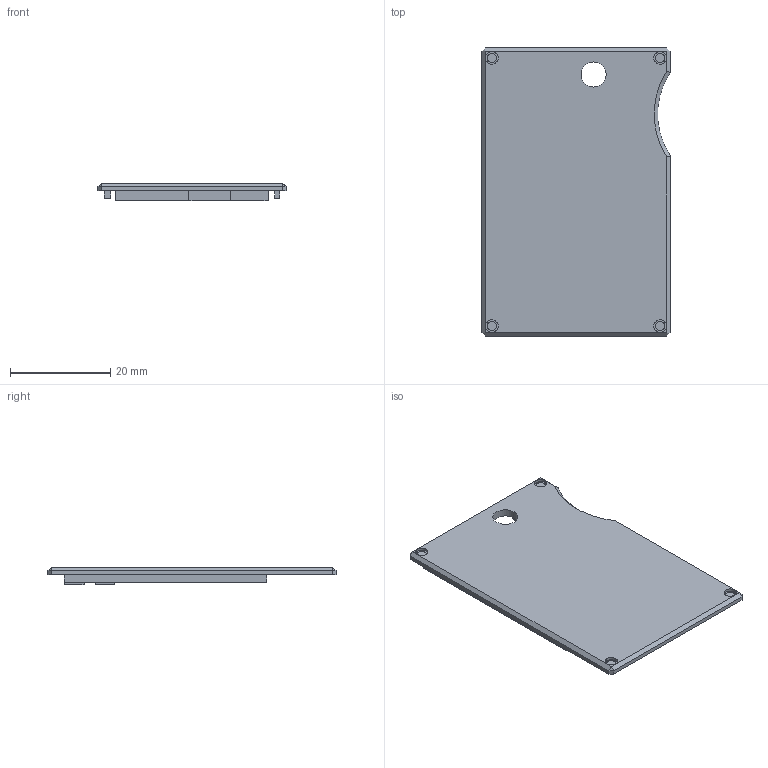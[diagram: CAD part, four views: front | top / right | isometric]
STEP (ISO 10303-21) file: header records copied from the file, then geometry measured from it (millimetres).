
FILE_DESCRIPTION(('FreeCAD Model'),'2;1');
FILE_NAME('Open CASCADE Shape Model','2026-01-29T07:27:18',(''),(''), 'Open CASCADE STEP processor 7.8','FreeCAD','Unknown');
FILE_SCHEMA(('AUTOMOTIVE_DESIGN { 1 0 10303 214 1 1 1 1 }'));
Length unit declared in the file: millimetre
Products named in the file (1): cover2
Bounding box: 37.5 x 57.4 x 3.5 mm (x, y, z)
Volume: 3419.7 mm3; surface area: 4821.4 mm2
Topology: 1 solids, 1 shells, 68 faces, 137 edges, 88 vertices
Faces by surface type: plane 57, cylinder 10, cone 1
Full cylindrical faces by diameter (mm): 1.8 x4, 2.5 x4, 5 x1
Entity records: 1774 total; most frequent: DIRECTION 302, CARTESIAN_POINT 294, ORIENTED_EDGE 274, EDGE_CURVE 137, LINE 110, VECTOR 110, AXIS2_PLACEMENT_3D 96, VERTEX_POINT 88
